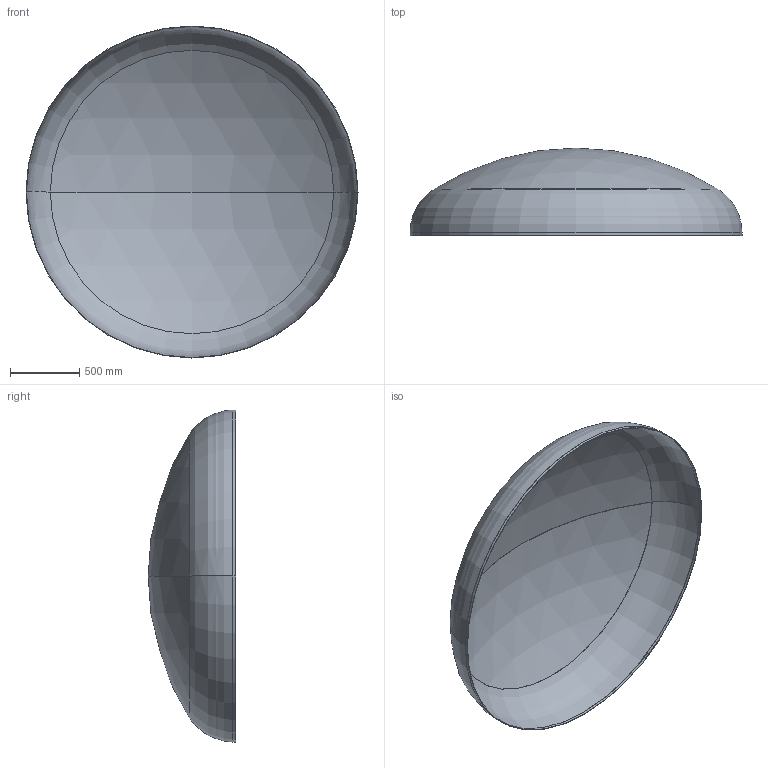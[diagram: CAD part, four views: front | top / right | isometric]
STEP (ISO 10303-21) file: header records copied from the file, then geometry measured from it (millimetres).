
FILE_DESCRIPTION (( 'STEP AP203' ), '1' );
FILE_NAME ('DIN 28013 Korbbogenform_-_Boden DIN 28013 - 2400 x 20 - I - s=3.step', '2016-07-01T15:00:28', ( '' ), ( '' ), 'SwSTEP 2.0', 'SolidWorks 2013', '' );
FILE_SCHEMA (( 'CONFIG_CONTROL_DESIGN' ));
Length unit declared in the file: millimetre
Products named in the file (1): DIN 28013 Korbbogenform_-_Boden DIN 28013 - 2400 x 20 - I - s=3
Bounding box: 2400 x 632.06 x 2400 mm (x, y, z)
Volume: 19223356.9 mm3; surface area: 12838176.1 mm2
Topology: 1 solids, 1 shells, 13 faces, 24 edges, 14 vertices
Faces by surface type: torus 4, cylinder 4, sphere 4, plane 1
Entity records: 407 total; most frequent: DIRECTION 72, CARTESIAN_POINT 52, ORIENTED_EDGE 48, AXIS2_PLACEMENT_3D 34, EDGE_CURVE 24, CIRCLE 20, EDGE_LOOP 14, VERTEX_POINT 14
